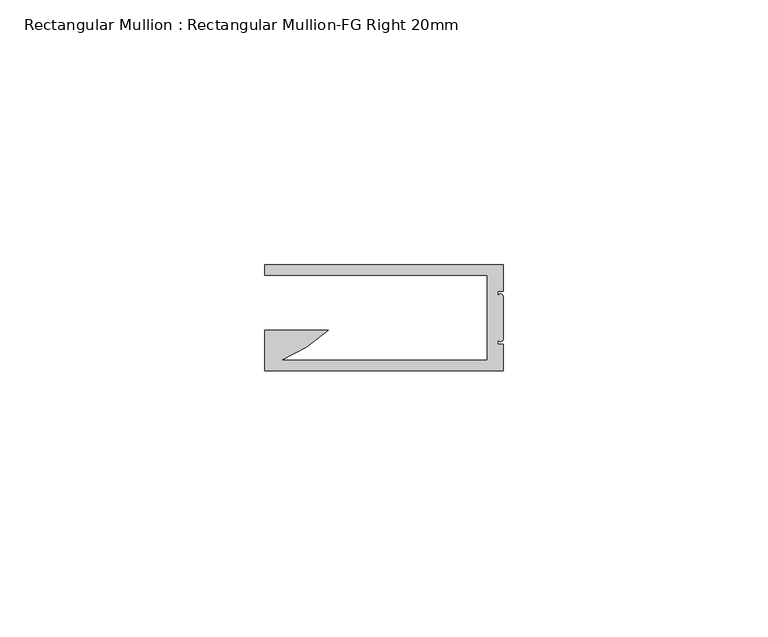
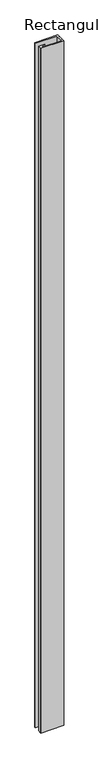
"""IFC4 building model written with IfcOpenShell, lengths in millimetres: member geometry, Rectangular Mullion : Rectangular Mullion-FG Right 20mm."""

from ifc_helpers import new_model, si_unit, frame, origin, place, context, project, spatial, circle_curve, source, transform, mapped, element, save
from ifc_brep_helpers import plane_surface, cylinder_surface, advanced_brep


def rectangular_mullion_rectangular_mullion_fg_right_20mm_0f13af1a(model_context):
    return source(origin(), model_context, "Body", "AdvancedBrep", [
        advanced_brep(
        [(0.0, -5.002, 0.0), (0.0, -0.002, 0.0), (-45.0, -0.002, 0.0), (-45.0, -2.002, 0.0), (-3.0, -2.002, 0.0), (-3.0, -18.002, 0.0), (-41.8651614, -18.002, 0.0), (-33.0474856, -12.382, 0.0), (-45.0, -12.382, 0.0), (-45.0, -18.002, 0.0), (-45.0, -20.002, 0.0), (0.0, -20.002, 0.0), (0.0, -15.002, 0.0), (-1.0, -15.002, 0.0), (-1.0, -14.002, 0.0), (0.0, -14.002, 0.0), (0.0, -6.002, 0.0), (-1.0, -6.002, 0.0), (-1.0, -5.002, 0.0), (0.0, -5.002, -1417.0033917), (-1.0, -5.002, -1417.0033917), (-1.0, -6.002, -1417.0033917), (0.0, -6.002, -1417.0033917), (0.0, -14.002, -1417.0033917), (-1.0, -14.002, -1417.0033917), (-1.0, -15.002, -1417.0033917), (0.0, -15.002, -1417.0033917), (0.0, -20.002, -1417.0033917), (-45.0, -20.002, -1417.0033917), (-45.0, -18.002, -1417.0033917), (-45.0, -12.382, -1417.0033917), (-33.0474856, -12.382, -1417.0033917), (-41.8651614, -18.002, -1417.0033917), (-3.0, -18.002, -1417.0033917), (-3.0, -2.002, -1417.0033917), (-45.0, -2.002, -1417.0033917), (-45.0, -0.002, -1417.0033917), (0.0, -0.002, -1417.0033917)],
        [
            (0, 1),
            (1, 2),
            (2, 3),
            (3, 4),
            (4, 5),
            (5, 6),
            (6, 7, circle_curve(frame((-52.4160523, 8.2795369, 0.0), z_axis=(0.0, 0.0, 1.0), x_axis=(1.0, 0.0, 0.0)), 28.3203192)),
            (7, 8),
            (8, 9),
            (9, 10),
            (10, 11),
            (11, 12),
            (12, 13),
            (13, 14),
            (14, 15, circle_curve(frame((-0.5, -14.002, 0.0), z_axis=(0.0, 0.0, 1.0), x_axis=(1.0, 0.0, 0.0)), 0.5)),
            (15, 16),
            (16, 17, circle_curve(frame((-0.5, -6.002, 0.0), z_axis=(0.0, 0.0, 1.0), x_axis=(1.0, 0.0, 0.0)), 0.5)),
            (17, 18),
            (18, 0),
            (19, 20),
            (20, 21),
            (21, 22, circle_curve(frame((-0.5, -6.002, -1417.0033917), z_axis=(0.0, 0.0, -1.0), x_axis=(1.0, 0.0, 0.0)), 0.5)),
            (22, 23),
            (23, 24, circle_curve(frame((-0.5, -14.002, -1417.0033917), z_axis=(0.0, 0.0, -1.0), x_axis=(1.0, 0.0, 0.0)), 0.5)),
            (24, 25),
            (25, 26),
            (26, 27),
            (27, 28),
            (28, 29),
            (29, 30),
            (30, 31),
            (31, 32, circle_curve(frame((-52.4160523, 8.2795369, -1417.0033917), z_axis=(0.0, 0.0, -1.0), x_axis=(1.0, 0.0, 0.0)), 28.3203192)),
            (32, 33),
            (33, 34),
            (34, 35),
            (35, 36),
            (36, 37),
            (37, 19),
            (0, 19),
            (37, 1),
            (36, 2),
            (35, 3),
            (34, 4),
            (33, 5),
            (32, 6),
            (31, 7),
            (30, 8),
            (29, 9),
            (28, 10),
            (27, 11),
            (26, 12),
            (25, 13),
            (24, 14),
            (23, 15),
            (22, 16),
            (21, 17),
            (20, 18),
        ],
        [
            plane_surface(frame((0.0, -49.2451013, 0.0), z_axis=(0.0, 0.0, 1.0), x_axis=(-1.0, 0.0, 0.0))),
            plane_surface(frame((0.0, -49.2451013, -1417.0033917), z_axis=(0.0, 0.0, -1.0), x_axis=(-1.0, 0.0, 0.0))),
            plane_surface(frame((0.0, -5.002, 0.0), z_axis=(1.0, 0.0, 0.0), x_axis=(0.0, 0.0, -1.0))),
            plane_surface(frame((0.0, -0.002, 0.0), z_axis=(0.0, 1.0, 0.0), x_axis=(0.0, 0.0, -1.0))),
            plane_surface(frame((-45.0, -0.002, 0.0), z_axis=(-1.0, 0.0, 0.0), x_axis=(0.0, 0.0, -1.0))),
            plane_surface(frame((-45.0, -2.002, 0.0), z_axis=(0.0, -1.0, 0.0), x_axis=(0.0, 0.0, -1.0))),
            plane_surface(frame((-3.0, -2.002, 0.0), z_axis=(-1.0, 0.0, 0.0), x_axis=(0.0, 0.0, -1.0))),
            plane_surface(frame((-3.0, -18.002, 0.0), z_axis=(0.0, 1.0, 0.0), x_axis=(0.0, 0.0, -1.0))),
            cylinder_surface(frame((-52.4160523, 8.2795369, 0.0), z_axis=(0.0, 0.0, 1.0), x_axis=(1.0, 0.0, 0.0)), 28.3203192),
            plane_surface(frame((-33.0474856, -12.382, 0.0), z_axis=(0.0, 1.0, 0.0), x_axis=(0.0, 0.0, -1.0))),
            plane_surface(frame((-45.0, -12.382, 0.0), z_axis=(-1.0, 0.0, 0.0), x_axis=(0.0, 0.0, -1.0))),
            plane_surface(frame((-45.0, -18.002, 0.0), z_axis=(-1.0, 0.0, 0.0), x_axis=(0.0, 0.0, -1.0))),
            plane_surface(frame((-45.0, -20.002, 0.0), z_axis=(0.0, -1.0, 0.0), x_axis=(0.0, 0.0, -1.0))),
            plane_surface(frame((0.0, -20.002, 0.0), z_axis=(1.0, 0.0, 0.0), x_axis=(0.0, 0.0, -1.0))),
            plane_surface(frame((0.0, -15.002, 0.0), z_axis=(0.0, 1.0, 0.0), x_axis=(0.0, 0.0, -1.0))),
            plane_surface(frame((-1.0, -15.002, 0.0), z_axis=(1.0, 0.0, 0.0), x_axis=(0.0, 0.0, -1.0))),
            cylinder_surface(frame((-0.5, -14.002, 0.0), z_axis=(0.0, 0.0, 1.0), x_axis=(1.0, 0.0, 0.0)), 0.5),
            plane_surface(frame((0.0, -14.002, 0.0), z_axis=(1.0, 0.0, 0.0), x_axis=(0.0, 0.0, -1.0))),
            cylinder_surface(frame((-0.5, -6.002, 0.0), z_axis=(0.0, 0.0, 1.0), x_axis=(1.0, 0.0, 0.0)), 0.5),
            plane_surface(frame((-1.0, -6.002, 0.0), z_axis=(1.0, 0.0, 0.0), x_axis=(0.0, 0.0, -1.0))),
            plane_surface(frame((-1.0, -5.002, 0.0), z_axis=(0.0, -1.0, 0.0), x_axis=(0.0, 0.0, -1.0))),
        ],
        [
            (0, [[1, 2, 3, 4, 5, 6, 7, 8, 9, 10, 11, 12, 13, 14, 15, 16, 17, 18, 19]]),
            (1, [[20, 21, 22, 23, 24, 25, 26, 27, 28, 29, 30, 31, 32, 33, 34, 35, 36, 37, 38]]),
            (2, [[-1, 39, -38, 40]]),
            (3, [[-2, -40, -37, 41]]),
            (4, [[-3, -41, -36, 42]]),
            (5, [[-4, -42, -35, 43]]),
            (6, [[-5, -43, -34, 44]]),
            (7, [[-6, -44, -33, 45]]),
            (8, [[-7, -45, -32, 46]]),
            (9, [[-8, -46, -31, 47]]),
            (10, [[-9, -47, -30, 48]]),
            (11, [[-10, -48, -29, 49]]),
            (12, [[-11, -49, -28, 50]]),
            (13, [[-12, -50, -27, 51]]),
            (14, [[-13, -51, -26, 52]]),
            (15, [[-14, -52, -25, 53]]),
            (16, [[-15, -53, -24, 54]]),
            (17, [[-16, -54, -23, 55]]),
            (18, [[-17, -55, -22, 56]]),
            (19, [[-18, -56, -21, 57]]),
            (20, [[-19, -57, -20, -39]]),
        ],
    ),
    ])


if __name__ == "__main__":
    model = new_model("IFC4")
    model_context = context("Model", 3, world=origin())
    ifc_project = project(units=[si_unit("LENGTHUNIT", "METRE", prefix="MILLI")], contexts=[model_context])
    site = spatial("IfcSite", under=ifc_project)
    building = spatial("IfcBuilding", under=site)
    placement = place(None, origin())
    rectangular_mullion_rectangular_mullion_fg_right_20mm_shape = rectangular_mullion_rectangular_mullion_fg_right_20mm_0f13af1a(model_context)
    element("IfcMember", 1, ObjectType="Rectangular Mullion : Rectangular Mullion-FG Right 20mm", at=placement, inside=building, context=model_context, shape_type="MappedRepresentation", body=[
        mapped(rectangular_mullion_rectangular_mullion_fg_right_20mm_shape, transform((0.0, 0.0, 0.0), x_axis=(1.0, 0.0, 0.0), y_axis=(0.0, 1.0, 0.0), z_axis=(0.0, 0.0, 1.0))),
    ])
    save(model, "model.ifc")
